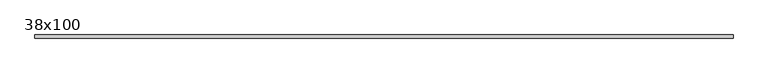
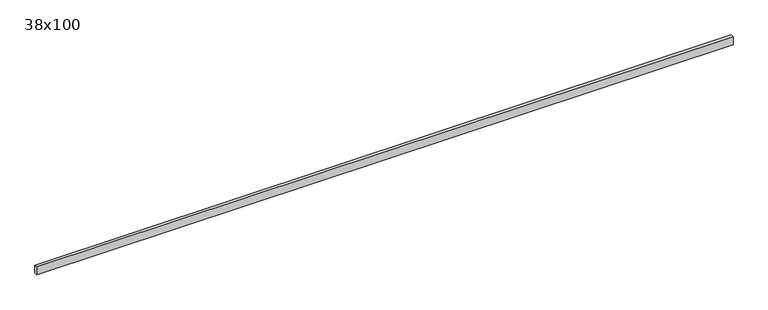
"""IFC4 building model written with IfcOpenShell, lengths in millimetres: beam geometry, Poutre - Bois de construction de dimensions courantes : 38x100."""

from ifc_helpers import new_model, si_unit, frame, origin, place, context, project, spatial, polyline, outline, extrude, source, transform, mapped, element, save


def beam_38x100_caba0cb9(model_context):
    return source(origin(), model_context, "Body", "SweptSolid", [
        extrude(outline(polyline([(4393.1044591, 19.05), (4393.1044591, -19.05), (-4026.5, -19.05), (-4026.5, 19.05), (4393.1044591, 19.05)])), frame((0.0, 0.0, -50.0), z_axis=(0.0, 0.0, 1.0), x_axis=(1.0, 0.0, 0.0)), (0.0, 0.0, 1.0), 100.0),
    ])


if __name__ == "__main__":
    model = new_model("IFC4")
    model_context = context("Model", 3, world=origin())
    ifc_project = project(units=[si_unit("LENGTHUNIT", "METRE", prefix="MILLI")], contexts=[model_context])
    site = spatial("IfcSite", under=ifc_project)
    building = spatial("IfcBuilding", under=site)
    placement = place(None, origin())
    beam_38x100_shape = beam_38x100_caba0cb9(model_context)
    element("IfcBeam", 1, ObjectType="Poutre - Bois de construction de dimensions courantes : 38x100", at=placement, inside=building, context=model_context, shape_type="MappedRepresentation", body=[
        mapped(beam_38x100_shape, transform((0.0, 0.0, 0.0), x_axis=(1.0, 0.0, 0.0), y_axis=(0.0, 1.0, 0.0), z_axis=(0.0, 0.0, 1.0))),
    ])
    save(model, "model.ifc")
